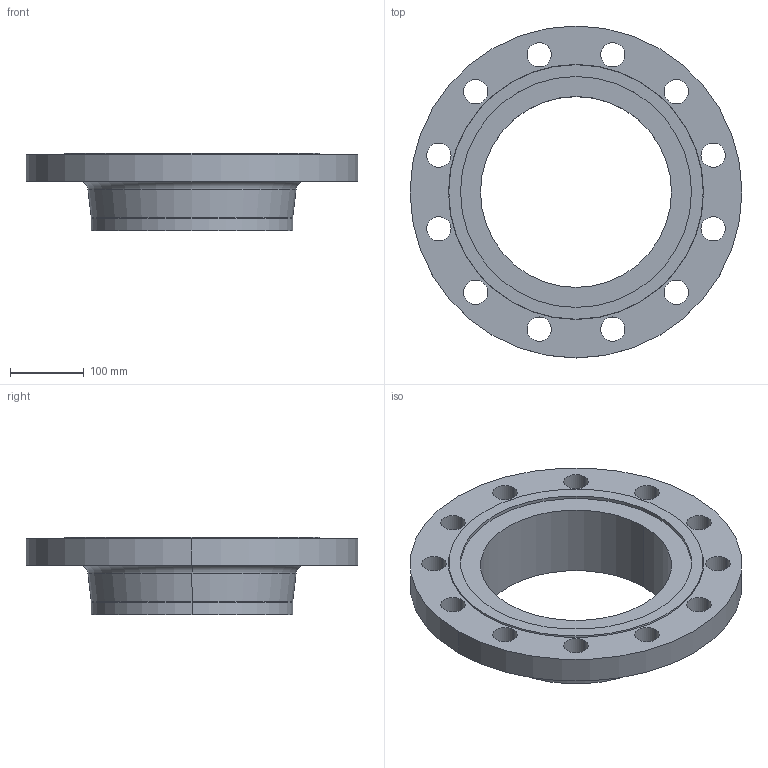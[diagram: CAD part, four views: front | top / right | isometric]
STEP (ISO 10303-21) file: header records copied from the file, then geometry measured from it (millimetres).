
FILE_DESCRIPTION (( 'STEP AP214' ), '1' );
FILE_NAME ('PN40 DN250 Type 11 - Type F Face.STEP', '2019-01-05T16:10:41', ( '' ), ( '' ), 'SwSTEP 2.0', 'SolidWorks 2019', '' );
FILE_SCHEMA (( 'AUTOMOTIVE_DESIGN' ));
Length unit declared in the file: millimetre
Products named in the file (1): PN40 DN250 Type 11 - Type F Face
Bounding box: 450 x 450 x 105 mm (x, y, z)
Volume: 3979437 mm3; surface area: 426120.5 mm2
Topology: 1 solids, 1 shells, 45 faces, 114 edges, 74 vertices
Faces by surface type: cylinder 32, plane 5, torus 4, cone 4
Entity records: 1484 total; most frequent: DIRECTION 284, CARTESIAN_POINT 234, ORIENTED_EDGE 228, AXIS2_PLACEMENT_3D 124, EDGE_CURVE 114, CIRCLE 78, EDGE_LOOP 74, VERTEX_POINT 74
